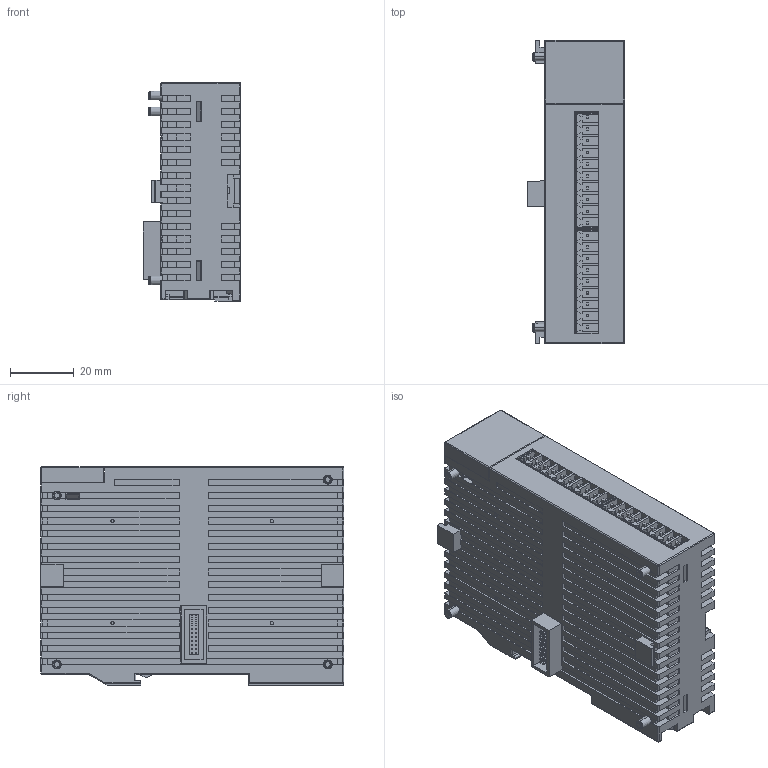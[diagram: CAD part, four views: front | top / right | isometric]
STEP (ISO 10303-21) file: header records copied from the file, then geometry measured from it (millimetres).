
FILE_DESCRIPTION (( 'STEP AP203' ), '1' );
FILE_NAME ('A系列卡片PLC拓展模块.STEP', '2023-05-06T09:44:54', ( 'h''w''s''j''s' ), ( '' ), 'SwSTEP 2.0', 'SolidWorks 2020', '' );
FILE_SCHEMA (( 'CONFIG_CONTROL_DESIGN' ));
Length unit declared in the file: millimetre
Products named in the file (1): A炵蹈縐えPLC阹桯耀輸
Bounding box: 30.61 x 95.13 x 68.5 mm (x, y, z)
Volume: 149849.3 mm3; surface area: 37558.5 mm2
Topology: 2 solids, 17 shells, 1828 faces, 5328 edges, 3494 vertices
Faces by surface type: plane 1556, cylinder 215, torus 35, sphere 11, cone 8, bspline 3
Entity records: 64191 total; most frequent: CARTESIAN_POINT 21907, ORIENTED_EDGE 10638, DIRECTION 5881, EDGE_CURVE 5319, VERTEX_POINT 3494, B_SPLINE_CURVE_WITH_KNOTS 3105, LINE 2177, VECTOR 2177
